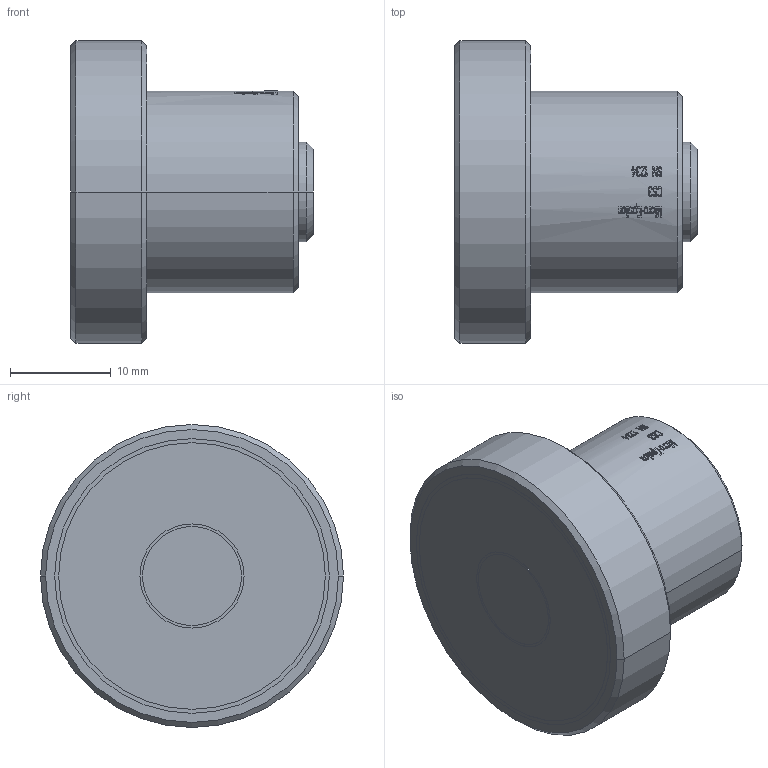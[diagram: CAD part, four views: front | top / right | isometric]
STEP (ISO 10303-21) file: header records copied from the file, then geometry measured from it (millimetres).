
FILE_DESCRIPTION((''),'2;1');
FILE_NAME('CS3','2009-07-30T',('11000065'),(''),'PRO/ENGINEER BY PARAMETRIC TECHNOLOGY CORPORATION, 2008490','PRO/ENGINEER BY PARAMETRIC TECHNOLOGY CORPORATION, 2008490','');
FILE_SCHEMA(('AUTOMOTIVE_DESIGN { 1 2 10303 214 0 1 1 1 }'));
Length unit declared in the file: millimetre
Products named in the file (1): CS3
Bounding box: 24.02 x 30 x 30 mm (x, y, z)
Volume: 9847.6 mm3; surface area: 3246.6 mm2
Topology: 1 solids, 1 shells, 695 faces, 1954 edges, 1300 vertices
Faces by surface type: plane 635, cylinder 52, cone 8
Entity records: 28478 total; most frequent: CARTESIAN_POINT 5678, ORIENTED_EDGE 3908, DIRECTION 2708, PRESENTATION_STYLE_ASSIGNMENT 1990, STYLED_ITEM 1957, CURVE_STYLE 1954, EDGE_CURVE 1954, VERTEX_POINT 1300
